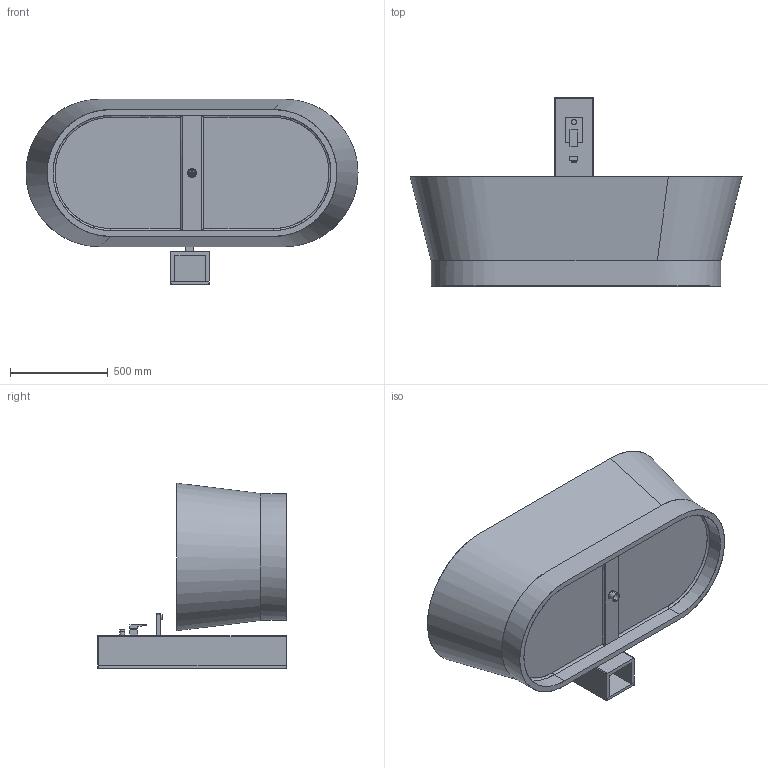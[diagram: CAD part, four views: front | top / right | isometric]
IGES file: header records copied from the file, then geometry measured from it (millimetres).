
Start section: SolidWorks IGES file using analytic representation for surfaces
Global section: file name: C:\Documents and Settings\Administrator\袤醱\igs跡宒\new\170b.IGS; native system: SolidWorks 2010; preprocessor: SolidWorks 2010; author: Administrator; date: 100728.112336; units: millimetre
Bounding box: 1700 x 965 x 949.75 mm (x, y, z)
Surface area: 7494524.7 mm2 (no closed solid volume)
Topology: 0 solids, 0 shells, 249 faces, 3893 edges, 3833 vertices
Faces by surface type: revolution 141, bspline 108
